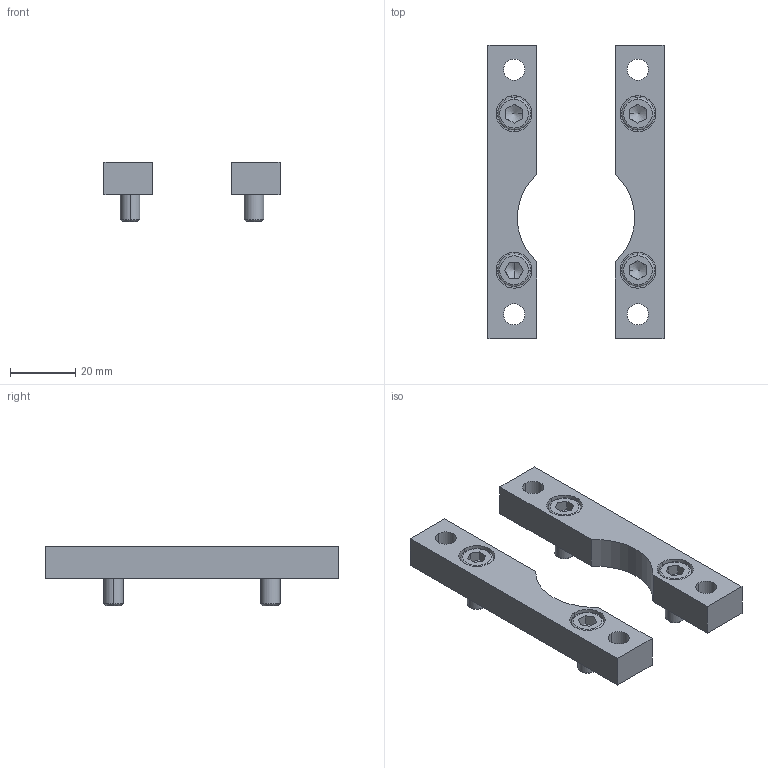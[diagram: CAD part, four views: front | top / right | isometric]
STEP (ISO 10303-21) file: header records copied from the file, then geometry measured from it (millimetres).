
FILE_DESCRIPTION (( 'STEP AP203' ), '1' );
FILE_NAME ('MJ0-BL.STEP', '2024-01-05T12:39:59', ( '' ), ( '' ), 'SwSTEP 2.0', 'SolidWorks 2022', '' );
FILE_SCHEMA (( 'CONFIG_CONTROL_DESIGN' ));
Length unit declared in the file: millimetre
Products named in the file (1): MJ0-BL
Bounding box: 54 x 90 x 18.4 mm (x, y, z)
Volume: 23420.2 mm3; surface area: 13137 mm2
Topology: 6 solids, 6 shells, 128 faces, 316 edges, 204 vertices
Faces by surface type: plane 54, cylinder 42, torus 16, cone 16
Entity records: 3847 total; most frequent: CARTESIAN_POINT 705, DIRECTION 674, ORIENTED_EDGE 616, EDGE_CURVE 308, AXIS2_PLACEMENT_3D 269, VERTEX_POINT 204, EDGE_LOOP 156, CIRCLE 140
